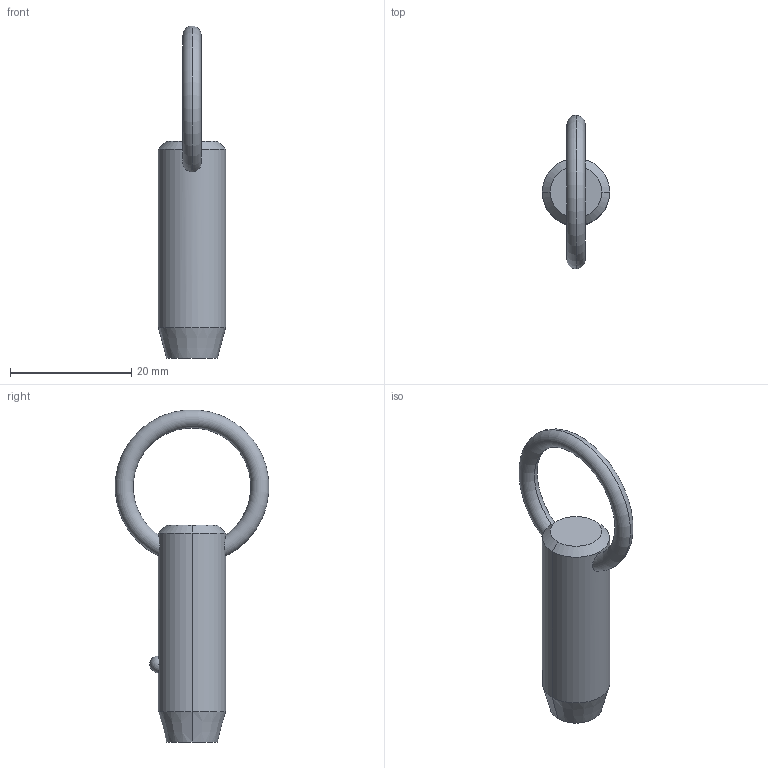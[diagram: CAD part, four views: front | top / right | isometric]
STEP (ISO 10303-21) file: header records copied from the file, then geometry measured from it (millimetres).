
FILE_DESCRIPTION (( 'STEP AP203' ), '1' );
FILE_NAME ('P1250.050-060.step', '2019-07-29T20:27:56', ( '' ), ( '' ), 'SwSTEP 2.0', 'SolidWorks 2017', '' );
FILE_SCHEMA (( 'CONFIG_CONTROL_DESIGN' ));
Length unit declared in the file: millimetre
Products named in the file (1): P1250.050-060
Bounding box: 11.1 x 25.32 x 54.75 mm (x, y, z)
Volume: 3747 mm3; surface area: 1901 mm2
Topology: 1 solids, 1 shells, 12 faces, 28 edges, 17 vertices
Faces by surface type: cone 4, torus 2, sphere 2, cylinder 2, plane 2
Entity records: 523 total; most frequent: CARTESIAN_POINT 190, DIRECTION 56, ORIENTED_EDGE 48, AXIS2_PLACEMENT_3D 25, EDGE_CURVE 24, VERTEX_POINT 15, EDGE_LOOP 15, FACE_OUTER_BOUND 12
